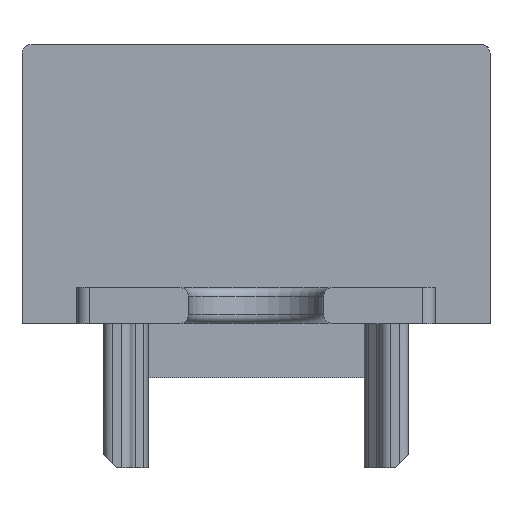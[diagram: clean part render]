
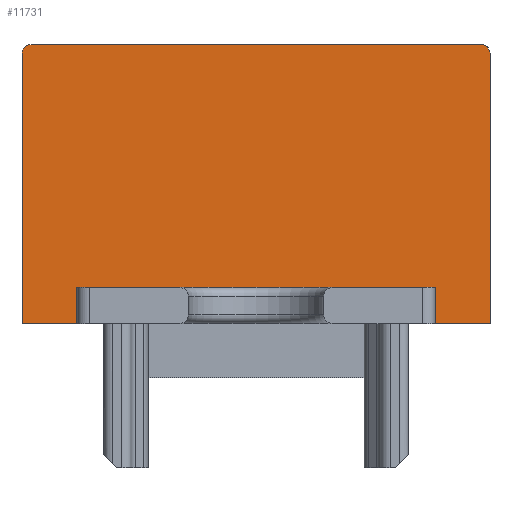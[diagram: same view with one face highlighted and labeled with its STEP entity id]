
A CAD part, front view. The second image highlights one B-rep face of the part: STEP entity #11731.
In plain terms, the highlighted planar face has unit normal (0, -1, 0).
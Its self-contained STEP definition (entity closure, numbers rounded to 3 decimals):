
#37 = CARTESIAN_POINT ( 'NONE',  ( -13., 7.5, 2. ) ) ;
#101 = EDGE_CURVE ( 'NONE', #4565, #7519, #10787, .T. ) ;
#108 = VECTOR ( 'NONE', #2396, 1000. ) ;
#134 = EDGE_CURVE ( 'NONE', #6192, #12209, #1077, .T. ) ;
#184 = ORIENTED_EDGE ( 'NONE', *, *, #4594, .T. ) ;
#194 = DIRECTION ( 'NONE',  ( 0., 0., 1. ) ) ;
#207 = CARTESIAN_POINT ( 'NONE',  ( 12.5, 7.5, 15.5 ) ) ;
#299 = VERTEX_POINT ( 'NONE', #2683 ) ;
#379 = VERTEX_POINT ( 'NONE', #8842 ) ;
#863 = LINE ( 'NONE', #8759, #2009 ) ;
#902 = VECTOR ( 'NONE', #5904, 1000. ) ;
#941 = DIRECTION ( 'NONE',  ( 1., 0., 0. ) ) ;
#1068 = ORIENTED_EDGE ( 'NONE', *, *, #2389, .T. ) ;
#1077 = LINE ( 'NONE', #9696, #10549 ) ;
#1114 = EDGE_CURVE ( 'NONE', #4056, #10514, #10131, .T. ) ;
#1243 = CARTESIAN_POINT ( 'NONE',  ( -9.75, 7.5, 2. ) ) ;
#1328 = CARTESIAN_POINT ( 'NONE',  ( -9.555, 7.5, 0. ) ) ;
#1350 = LINE ( 'NONE', #4312, #6179 ) ;
#1684 = CARTESIAN_POINT ( 'NONE',  ( -6.9, 7.5, 2. ) ) ;
#1691 = VECTOR ( 'NONE', #941, 1000. ) ;
#1783 = FACE_OUTER_BOUND ( 'NONE', #3933, .T. ) ;
#1868 = EDGE_CURVE ( 'NONE', #4056, #10570, #4240, .T. ) ;
#1946 = CIRCLE ( 'NONE', #5241, 0.5 ) ;
#1976 = CARTESIAN_POINT ( 'NONE',  ( 13., 7.5, 2. ) ) ;
#1984 = EDGE_CURVE ( 'NONE', #4565, #12602, #1946, .T. ) ;
#2009 = VECTOR ( 'NONE', #9533, 1000. ) ;
#2022 = VECTOR ( 'NONE', #9673, 1000. ) ;
#2221 = VECTOR ( 'NONE', #7317, 1000. ) ;
#2283 = VERTEX_POINT ( 'NONE', #12303 ) ;
#2326 = ORIENTED_EDGE ( 'NONE', *, *, #5575, .T. ) ;
#2347 = DIRECTION ( 'NONE',  ( 1., 0., 0. ) ) ;
#2389 = EDGE_CURVE ( 'NONE', #299, #11754, #6013, .T. ) ;
#2396 = DIRECTION ( 'NONE',  ( 0., 0., 1. ) ) ;
#2455 = ORIENTED_EDGE ( 'NONE', *, *, #4364, .T. ) ;
#2561 = VERTEX_POINT ( 'NONE', #1243 ) ;
#2574 = DIRECTION ( 'NONE',  ( 1., 0., 0. ) ) ;
#2683 = CARTESIAN_POINT ( 'NONE',  ( 7.9, 7.5, 2. ) ) ;
#2890 = EDGE_CURVE ( 'NONE', #6377, #7841, #10523, .T. ) ;
#2937 = CARTESIAN_POINT ( 'NONE',  ( -9.75, 7.5, 0. ) ) ;
#3224 = CARTESIAN_POINT ( 'NONE',  ( 9.75, 7.5, -2. ) ) ;
#3294 = CARTESIAN_POINT ( 'NONE',  ( 9.75, 7.5, 0. ) ) ;
#3342 = LINE ( 'NONE', #5278, #6973 ) ;
#3479 = LINE ( 'NONE', #7264, #12684 ) ;
#3530 = DIRECTION ( 'NONE',  ( 0., 0., 1. ) ) ;
#3551 = LINE ( 'NONE', #4582, #11870 ) ;
#3623 = DIRECTION ( 'NONE',  ( 1., 0., 0. ) ) ;
#3857 = DIRECTION ( 'NONE',  ( 1., 0., 0. ) ) ;
#3933 = EDGE_LOOP ( 'NONE', ( #11444, #2326, #2455, #8547, #11313, #10619, #10589, #7170, #8282, #184, #1068, #5999, #6099, #9041, #4618, #11943, #10085, #10533 ) ) ;
#4056 = VERTEX_POINT ( 'NONE', #6758 ) ;
#4113 = EDGE_CURVE ( 'NONE', #379, #11147, #3342, .T. ) ;
#4126 = CARTESIAN_POINT ( 'NONE',  ( -12.5, 7.5, 15. ) ) ;
#4240 = LINE ( 'NONE', #10020, #6468 ) ;
#4254 = DIRECTION ( 'NONE',  ( 0., -1., 0. ) ) ;
#4312 = CARTESIAN_POINT ( 'NONE',  ( -13., 7.5, 15.5 ) ) ;
#4364 = EDGE_CURVE ( 'NONE', #2561, #10570, #12647, .T. ) ;
#4460 = CARTESIAN_POINT ( 'NONE',  ( 6.9, 7.5, -2. ) ) ;
#4517 = CARTESIAN_POINT ( 'NONE',  ( -6.9, 7.5, 0. ) ) ;
#4565 = VERTEX_POINT ( 'NONE', #11460 ) ;
#4582 = CARTESIAN_POINT ( 'NONE',  ( -13., 7.5, 2. ) ) ;
#4594 = EDGE_CURVE ( 'NONE', #12209, #299, #8951, .T. ) ;
#4618 = ORIENTED_EDGE ( 'NONE', *, *, #1984, .T. ) ;
#4688 = AXIS2_PLACEMENT_3D ( 'NONE', #6678, #10595, #12516 ) ;
#4736 = LINE ( 'NONE', #8707, #2022 ) ;
#4772 = CARTESIAN_POINT ( 'NONE',  ( 6.9, 7.5, 0. ) ) ;
#4950 = EDGE_CURVE ( 'NONE', #6087, #11754, #8100, .T. ) ;
#5010 = DIRECTION ( 'NONE',  ( 1., 0., 0. ) ) ;
#5189 = EDGE_CURVE ( 'NONE', #5907, #2283, #3551, .T. ) ;
#5241 = AXIS2_PLACEMENT_3D ( 'NONE', #7314, #5590, #3530 ) ;
#5278 = CARTESIAN_POINT ( 'NONE',  ( -9.95, 7.5, 0. ) ) ;
#5575 = EDGE_CURVE ( 'NONE', #11147, #2561, #4736, .T. ) ;
#5590 = DIRECTION ( 'NONE',  ( 0., -1., 0. ) ) ;
#5904 = DIRECTION ( 'NONE',  ( 0., 0., -1. ) ) ;
#5907 = VERTEX_POINT ( 'NONE', #1684 ) ;
#5999 = ORIENTED_EDGE ( 'NONE', *, *, #4950, .F. ) ;
#6013 = LINE ( 'NONE', #37, #1691 ) ;
#6087 = VERTEX_POINT ( 'NONE', #3294 ) ;
#6099 = ORIENTED_EDGE ( 'NONE', *, *, #12641, .T. ) ;
#6179 = VECTOR ( 'NONE', #11239, 1000. ) ;
#6192 = VERTEX_POINT ( 'NONE', #4772 ) ;
#6377 = VERTEX_POINT ( 'NONE', #11043 ) ;
#6394 = LINE ( 'NONE', #11086, #9551 ) ;
#6468 = VECTOR ( 'NONE', #194, 1000. ) ;
#6678 = CARTESIAN_POINT ( 'NONE',  ( 9.95, 7.5, 2. ) ) ;
#6758 = CARTESIAN_POINT ( 'NONE',  ( -7.9, 7.5, 0. ) ) ;
#6973 = VECTOR ( 'NONE', #11114, 1000. ) ;
#7170 = ORIENTED_EDGE ( 'NONE', *, *, #7446, .F. ) ;
#7264 = CARTESIAN_POINT ( 'NONE',  ( 9.95, 7.5, 0. ) ) ;
#7314 = CARTESIAN_POINT ( 'NONE',  ( 12.5, 7.5, 15. ) ) ;
#7317 = DIRECTION ( 'NONE',  ( 0., 0., 1. ) ) ;
#7415 = EDGE_CURVE ( 'NONE', #7841, #379, #6394, .T. ) ;
#7446 = EDGE_CURVE ( 'NONE', #6192, #2283, #8198, .T. ) ;
#7519 = VERTEX_POINT ( 'NONE', #10446 ) ;
#7800 = CARTESIAN_POINT ( 'NONE',  ( 7.9, 7.5, -2. ) ) ;
#7841 = VERTEX_POINT ( 'NONE', #10150 ) ;
#8100 = LINE ( 'NONE', #3224, #2221 ) ;
#8198 = LINE ( 'NONE', #4460, #108 ) ;
#8282 = ORIENTED_EDGE ( 'NONE', *, *, #134, .T. ) ;
#8538 = CARTESIAN_POINT ( 'NONE',  ( 9.75, 7.5, 2. ) ) ;
#8547 = ORIENTED_EDGE ( 'NONE', *, *, #1868, .F. ) ;
#8665 = EDGE_CURVE ( 'NONE', #6377, #12602, #1350, .T. ) ;
#8707 = CARTESIAN_POINT ( 'NONE',  ( -9.75, 7.5, -2. ) ) ;
#8759 = CARTESIAN_POINT ( 'NONE',  ( -6.9, 7.5, -2. ) ) ;
#8827 = DIRECTION ( 'NONE',  ( 0., 0., 1. ) ) ;
#8842 = CARTESIAN_POINT ( 'NONE',  ( -13., 7.5, 0. ) ) ;
#8951 = LINE ( 'NONE', #7800, #10461 ) ;
#9041 = ORIENTED_EDGE ( 'NONE', *, *, #101, .F. ) ;
#9135 = DIRECTION ( 'NONE',  ( 0., 0., 1. ) ) ;
#9533 = DIRECTION ( 'NONE',  ( 0., 0., 1. ) ) ;
#9551 = VECTOR ( 'NONE', #10242, 1000. ) ;
#9673 = DIRECTION ( 'NONE',  ( 0., 0., 1. ) ) ;
#9696 = CARTESIAN_POINT ( 'NONE',  ( -9.555, 7.5, 0. ) ) ;
#9740 = CARTESIAN_POINT ( 'NONE',  ( 7.9, 7.5, 0. ) ) ;
#9905 = AXIS2_PLACEMENT_3D ( 'NONE', #4126, #4254, #9135 ) ;
#10020 = CARTESIAN_POINT ( 'NONE',  ( -7.9, 7.5, -2. ) ) ;
#10085 = ORIENTED_EDGE ( 'NONE', *, *, #2890, .T. ) ;
#10131 = LINE ( 'NONE', #1328, #11785 ) ;
#10150 = CARTESIAN_POINT ( 'NONE',  ( -13., 7.5, 15. ) ) ;
#10242 = DIRECTION ( 'NONE',  ( 0., 0., -1. ) ) ;
#10446 = CARTESIAN_POINT ( 'NONE',  ( 13., 7.5, 0. ) ) ;
#10461 = VECTOR ( 'NONE', #8827, 1000. ) ;
#10514 = VERTEX_POINT ( 'NONE', #4517 ) ;
#10523 = CIRCLE ( 'NONE', #9905, 0.5 ) ;
#10533 = ORIENTED_EDGE ( 'NONE', *, *, #7415, .T. ) ;
#10549 = VECTOR ( 'NONE', #5010, 1000. ) ;
#10570 = VERTEX_POINT ( 'NONE', #11513 ) ;
#10589 = ORIENTED_EDGE ( 'NONE', *, *, #5189, .T. ) ;
#10595 = DIRECTION ( 'NONE',  ( 0., 1., 0. ) ) ;
#10619 = ORIENTED_EDGE ( 'NONE', *, *, #12337, .T. ) ;
#10787 = LINE ( 'NONE', #1976, #902 ) ;
#11043 = CARTESIAN_POINT ( 'NONE',  ( -12.5, 7.5, 15.5 ) ) ;
#11086 = CARTESIAN_POINT ( 'NONE',  ( -13., 7.5, 2. ) ) ;
#11114 = DIRECTION ( 'NONE',  ( 1., 0., 0. ) ) ;
#11147 = VERTEX_POINT ( 'NONE', #2937 ) ;
#11239 = DIRECTION ( 'NONE',  ( 1., 0., 0. ) ) ;
#11273 = VECTOR ( 'NONE', #3857, 1000. ) ;
#11313 = ORIENTED_EDGE ( 'NONE', *, *, #1114, .T. ) ;
#11356 = PLANE ( 'NONE',  #4688 ) ;
#11444 = ORIENTED_EDGE ( 'NONE', *, *, #4113, .T. ) ;
#11460 = CARTESIAN_POINT ( 'NONE',  ( 13., 7.5, 15. ) ) ;
#11513 = CARTESIAN_POINT ( 'NONE',  ( -7.9, 7.5, 2. ) ) ;
#11677 = CARTESIAN_POINT ( 'NONE',  ( -13., 7.5, 2. ) ) ;
#11731 = ADVANCED_FACE ( 'NONE', ( #1783 ), #11356, .F. ) ;
#11754 = VERTEX_POINT ( 'NONE', #8538 ) ;
#11785 = VECTOR ( 'NONE', #2347, 1000. ) ;
#11870 = VECTOR ( 'NONE', #3623, 1000. ) ;
#11943 = ORIENTED_EDGE ( 'NONE', *, *, #8665, .F. ) ;
#12209 = VERTEX_POINT ( 'NONE', #9740 ) ;
#12303 = CARTESIAN_POINT ( 'NONE',  ( 6.9, 7.5, 2. ) ) ;
#12337 = EDGE_CURVE ( 'NONE', #10514, #5907, #863, .T. ) ;
#12516 = DIRECTION ( 'NONE',  ( 0., 0., 1. ) ) ;
#12602 = VERTEX_POINT ( 'NONE', #207 ) ;
#12641 = EDGE_CURVE ( 'NONE', #6087, #7519, #3479, .T. ) ;
#12647 = LINE ( 'NONE', #11677, #11273 ) ;
#12684 = VECTOR ( 'NONE', #2574, 1000. ) ;
